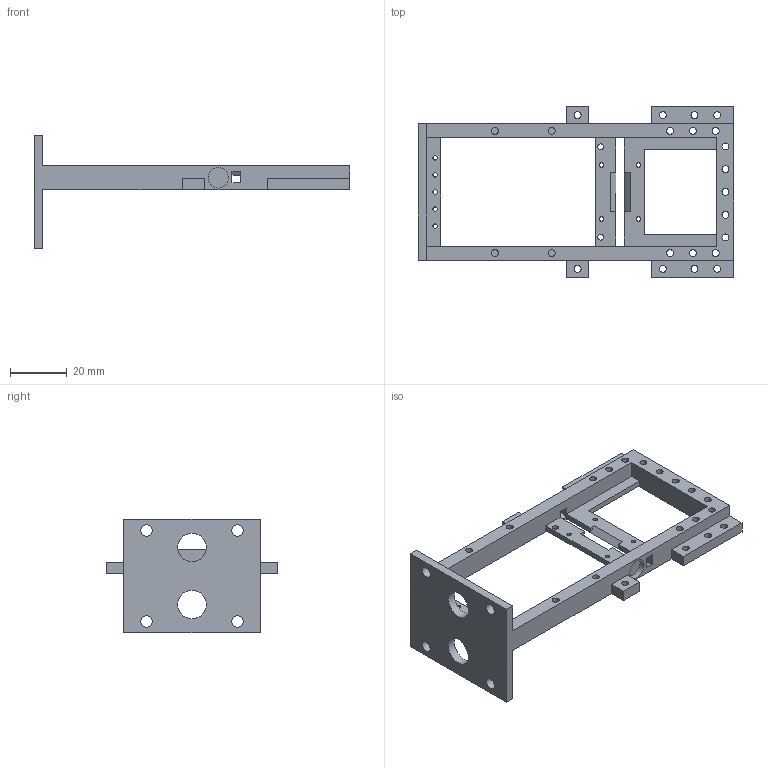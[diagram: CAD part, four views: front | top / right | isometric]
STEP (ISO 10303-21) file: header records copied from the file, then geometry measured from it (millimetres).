
FILE_DESCRIPTION(/* description */ (''),/* implementation_level */ '2;1');
FILE_NAME(/* name */ 'D:\TIQC Lab\Ba冷阱系统资料\四楼低温一体化Ba模型文件\加工\2022 09批次\【无氧铜镀金】holder-for-Ba【加工3个】.stp',/* time_stamp */ '2022-09-22T13:27:45+08:00',/* author */ ('guo'),/* organization */ (''),/* preprocessor_version */ 'ST-DEVELOPER v18',/* originating_system */ 'Autodesk Inventor 2020',/* authorisation */ '');
FILE_SCHEMA (('AUTOMOTIVE_DESIGN { 1 0 10303 214 3 1 1 }'));
Length unit declared in the file: millimetre
Products named in the file (1): holder修改 for Ba
Bounding box: 111.1 x 60 x 40 mm (x, y, z)
Volume: 18904.1 mm3; surface area: 15437.7 mm2
Topology: 1 solids, 1 shells, 99 faces, 317 edges, 240 vertices
Faces by surface type: plane 57, cylinder 42
Full cylindrical faces by diameter (mm): 1.567 x9, 2 x2, 2.459 x23, 4 x4, 7.2 x2, 10 x2
Entity records: 3672 total; most frequent: CARTESIAN_POINT 634, ORIENTED_EDGE 588, DIRECTION 586, EDGE_CURVE 294, LINE 206, VECTOR 206, VERTEX_POINT 196, AXIS2_PLACEMENT_3D 190
